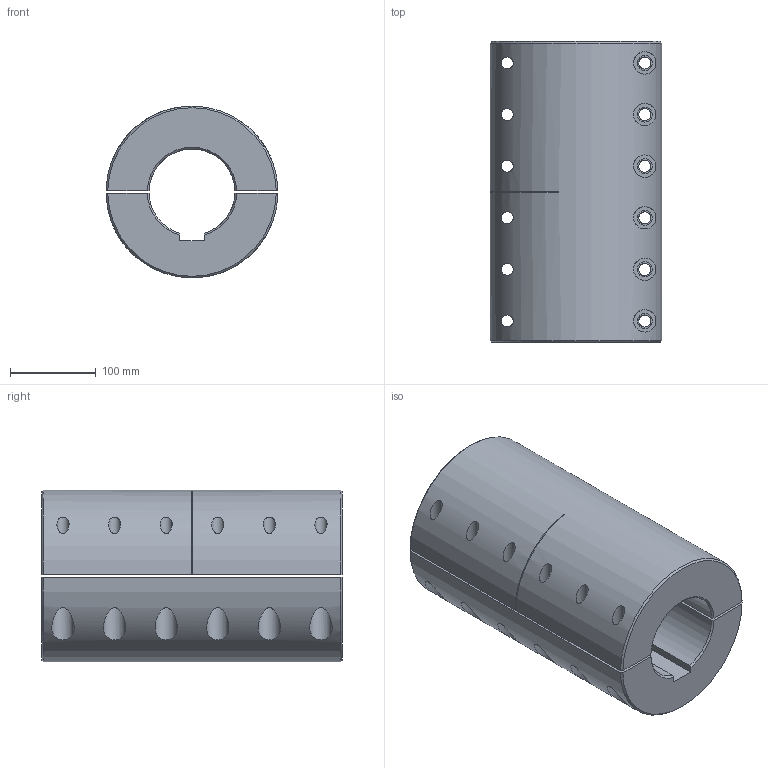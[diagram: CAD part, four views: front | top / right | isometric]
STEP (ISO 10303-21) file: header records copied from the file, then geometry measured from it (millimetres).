
FILE_DESCRIPTION (( 'STEP AP203' ), '1' );
FILE_NAME ('Y200-100-100-F.STEP', '2021-04-14T10:03:44', ( '' ), ( '' ), 'SwSTEP 2.0', 'SolidWorks 2020', '' );
FILE_SCHEMA (( 'CONFIG_CONTROL_DESIGN' ));
Length unit declared in the file: millimetre
Products named in the file (1): Y200-100-100-F
Bounding box: 199.98 x 350 x 200 mm (x, y, z)
Volume: 7634009.9 mm3; surface area: 528682.1 mm2
Topology: 2 solids, 2 shells, 82 faces, 198 edges, 132 vertices
Faces by surface type: cylinder 41, plane 31, cone 10
Full cylindrical faces by diameter (mm): 14 x12, 17.5 x12, 26 x12
Entity records: 4709 total; most frequent: CARTESIAN_POINT 2765, DIRECTION 360, ORIENTED_EDGE 324, EDGE_LOOP 178, EDGE_CURVE 162, AXIS2_PLACEMENT_3D 159, VERTEX_POINT 132, FACE_OUTER_BOUND 118
